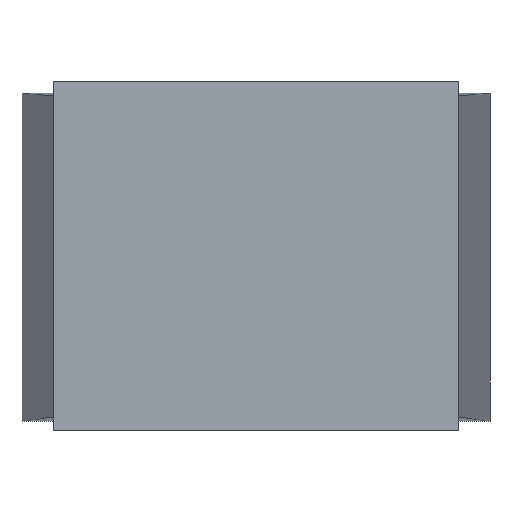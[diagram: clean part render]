
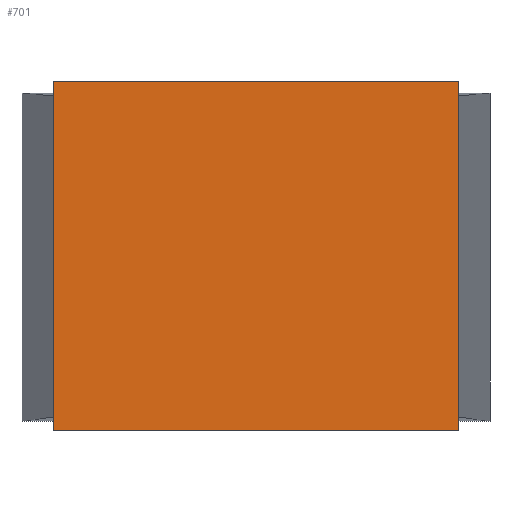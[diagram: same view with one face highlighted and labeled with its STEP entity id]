
A CAD part, top view. The second image highlights one B-rep face of the part: STEP entity #701.
In plain terms, the highlighted planar face has unit normal (0, 0, 1).
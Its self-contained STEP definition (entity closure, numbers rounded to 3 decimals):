
#387 = VERTEX_POINT('',#388);
#388 = CARTESIAN_POINT('',(-650.,-560.,2375.));
#395 = PLANE('',#396);
#396 = AXIS2_PLACEMENT_3D('',#397,#398,#399);
#397 = CARTESIAN_POINT('',(-650.,-560.,2300.));
#398 = DIRECTION('',(1.,0.,-0.));
#399 = DIRECTION('',(0.,0.,1.));
#407 = PLANE('',#408);
#408 = AXIS2_PLACEMENT_3D('',#409,#410,#411);
#409 = CARTESIAN_POINT('',(-650.,-560.,2300.));
#410 = DIRECTION('',(-0.,1.,0.));
#411 = DIRECTION('',(0.,0.,1.));
#448 = VERTEX_POINT('',#449);
#449 = CARTESIAN_POINT('',(-650.,560.,2375.));
#463 = PLANE('',#464);
#464 = AXIS2_PLACEMENT_3D('',#465,#466,#467);
#465 = CARTESIAN_POINT('',(-650.,560.,2300.));
#466 = DIRECTION('',(-0.,1.,0.));
#467 = DIRECTION('',(0.,0.,1.));
#475 = EDGE_CURVE('',#387,#448,#476,.T.);
#476 = SURFACE_CURVE('',#477,(#481,#488),.PCURVE_S1.);
#477 = LINE('',#478,#479);
#478 = CARTESIAN_POINT('',(-650.,-560.,2375.));
#479 = VECTOR('',#480,1.);
#480 = DIRECTION('',(-0.,1.,0.));
#481 = PCURVE('',#395,#482);
#482 = DEFINITIONAL_REPRESENTATION('',(#483),#487);
#483 = LINE('',#484,#485);
#484 = CARTESIAN_POINT('',(75.,0.));
#485 = VECTOR('',#486,1.);
#486 = DIRECTION('',(0.,-1.));
#487 = ( GEOMETRIC_REPRESENTATION_CONTEXT(2) 
PARAMETRIC_REPRESENTATION_CONTEXT() REPRESENTATION_CONTEXT('2D SPACE',''
  ) );
#488 = PCURVE('',#489,#494);
#489 = PLANE('',#490);
#490 = AXIS2_PLACEMENT_3D('',#491,#492,#493);
#491 = CARTESIAN_POINT('',(-650.,-560.,2375.));
#492 = DIRECTION('',(0.,0.,1.));
#493 = DIRECTION('',(1.,0.,-0.));
#494 = DEFINITIONAL_REPRESENTATION('',(#495),#499);
#495 = LINE('',#496,#497);
#496 = CARTESIAN_POINT('',(0.,0.));
#497 = VECTOR('',#498,1.);
#498 = DIRECTION('',(0.,1.));
#499 = ( GEOMETRIC_REPRESENTATION_CONTEXT(2) 
PARAMETRIC_REPRESENTATION_CONTEXT() REPRESENTATION_CONTEXT('2D SPACE',''
  ) );
#507 = VERTEX_POINT('',#508);
#508 = CARTESIAN_POINT('',(650.,-560.,2375.));
#515 = PLANE('',#516);
#516 = AXIS2_PLACEMENT_3D('',#517,#518,#519);
#517 = CARTESIAN_POINT('',(650.,-560.,2300.));
#518 = DIRECTION('',(1.,0.,-0.));
#519 = DIRECTION('',(0.,0.,1.));
#558 = VERTEX_POINT('',#559);
#559 = CARTESIAN_POINT('',(650.,560.,2375.));
#580 = EDGE_CURVE('',#507,#558,#581,.T.);
#581 = SURFACE_CURVE('',#582,(#586,#593),.PCURVE_S1.);
#582 = LINE('',#583,#584);
#583 = CARTESIAN_POINT('',(650.,-560.,2375.));
#584 = VECTOR('',#585,1.);
#585 = DIRECTION('',(-0.,1.,0.));
#586 = PCURVE('',#515,#587);
#587 = DEFINITIONAL_REPRESENTATION('',(#588),#592);
#588 = LINE('',#589,#590);
#589 = CARTESIAN_POINT('',(75.,0.));
#590 = VECTOR('',#591,1.);
#591 = DIRECTION('',(0.,-1.));
#592 = ( GEOMETRIC_REPRESENTATION_CONTEXT(2) 
PARAMETRIC_REPRESENTATION_CONTEXT() REPRESENTATION_CONTEXT('2D SPACE',''
  ) );
#593 = PCURVE('',#489,#594);
#594 = DEFINITIONAL_REPRESENTATION('',(#595),#599);
#595 = LINE('',#596,#597);
#596 = CARTESIAN_POINT('',(1300.,0.));
#597 = VECTOR('',#598,1.);
#598 = DIRECTION('',(0.,1.));
#599 = ( GEOMETRIC_REPRESENTATION_CONTEXT(2) 
PARAMETRIC_REPRESENTATION_CONTEXT() REPRESENTATION_CONTEXT('2D SPACE',''
  ) );
#626 = EDGE_CURVE('',#387,#507,#627,.T.);
#627 = SURFACE_CURVE('',#628,(#632,#639),.PCURVE_S1.);
#628 = LINE('',#629,#630);
#629 = CARTESIAN_POINT('',(-650.,-560.,2375.));
#630 = VECTOR('',#631,1.);
#631 = DIRECTION('',(1.,0.,-0.));
#632 = PCURVE('',#407,#633);
#633 = DEFINITIONAL_REPRESENTATION('',(#634),#638);
#634 = LINE('',#635,#636);
#635 = CARTESIAN_POINT('',(75.,0.));
#636 = VECTOR('',#637,1.);
#637 = DIRECTION('',(0.,1.));
#638 = ( GEOMETRIC_REPRESENTATION_CONTEXT(2) 
PARAMETRIC_REPRESENTATION_CONTEXT() REPRESENTATION_CONTEXT('2D SPACE',''
  ) );
#639 = PCURVE('',#489,#640);
#640 = DEFINITIONAL_REPRESENTATION('',(#641),#645);
#641 = LINE('',#642,#643);
#642 = CARTESIAN_POINT('',(0.,0.));
#643 = VECTOR('',#644,1.);
#644 = DIRECTION('',(1.,0.));
#645 = ( GEOMETRIC_REPRESENTATION_CONTEXT(2) 
PARAMETRIC_REPRESENTATION_CONTEXT() REPRESENTATION_CONTEXT('2D SPACE',''
  ) );
#673 = EDGE_CURVE('',#448,#558,#674,.T.);
#674 = SURFACE_CURVE('',#675,(#679,#686),.PCURVE_S1.);
#675 = LINE('',#676,#677);
#676 = CARTESIAN_POINT('',(-650.,560.,2375.));
#677 = VECTOR('',#678,1.);
#678 = DIRECTION('',(1.,0.,-0.));
#679 = PCURVE('',#463,#680);
#680 = DEFINITIONAL_REPRESENTATION('',(#681),#685);
#681 = LINE('',#682,#683);
#682 = CARTESIAN_POINT('',(75.,0.));
#683 = VECTOR('',#684,1.);
#684 = DIRECTION('',(0.,1.));
#685 = ( GEOMETRIC_REPRESENTATION_CONTEXT(2) 
PARAMETRIC_REPRESENTATION_CONTEXT() REPRESENTATION_CONTEXT('2D SPACE',''
  ) );
#686 = PCURVE('',#489,#687);
#687 = DEFINITIONAL_REPRESENTATION('',(#688),#692);
#688 = LINE('',#689,#690);
#689 = CARTESIAN_POINT('',(0.,1120.));
#690 = VECTOR('',#691,1.);
#691 = DIRECTION('',(1.,0.));
#692 = ( GEOMETRIC_REPRESENTATION_CONTEXT(2) 
PARAMETRIC_REPRESENTATION_CONTEXT() REPRESENTATION_CONTEXT('2D SPACE',''
  ) );
#701 = ADVANCED_FACE('',(#702),#489,.T.);
#702 = FACE_BOUND('',#703,.T.);
#703 = EDGE_LOOP('',(#704,#705,#706,#707));
#704 = ORIENTED_EDGE('',*,*,#475,.F.);
#705 = ORIENTED_EDGE('',*,*,#626,.T.);
#706 = ORIENTED_EDGE('',*,*,#580,.T.);
#707 = ORIENTED_EDGE('',*,*,#673,.F.);
